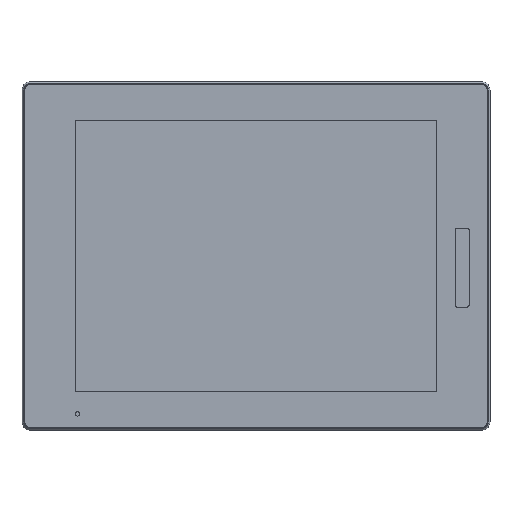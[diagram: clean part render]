
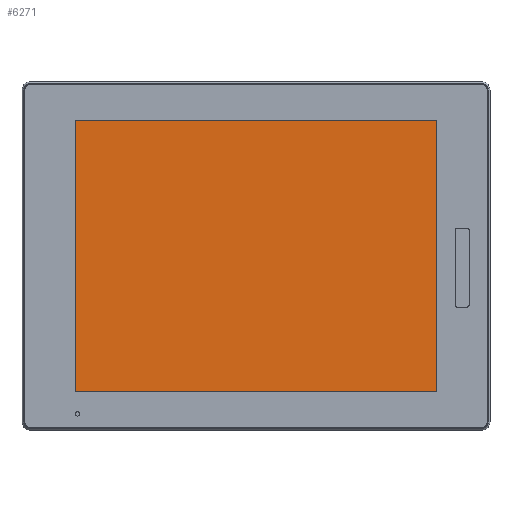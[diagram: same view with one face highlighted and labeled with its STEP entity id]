
A CAD part, top view. The second image highlights one B-rep face of the part: STEP entity #6271.
In plain terms, the highlighted planar face has unit normal (0, 0, 1).
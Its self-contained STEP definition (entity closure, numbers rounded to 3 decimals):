
#168 = VECTOR ( 'NONE', #10943, 1000. ) ;
#983 = DIRECTION ( 'NONE',  ( -1., 0., 0. ) ) ;
#995 = VECTOR ( 'NONE', #983, 1000. ) ;
#1655 = ORIENTED_EDGE ( 'NONE', *, *, #10422, .T. ) ;
#1839 = EDGE_CURVE ( 'NONE', #9930, #1986, #10707, .T. ) ;
#1902 = DIRECTION ( 'NONE',  ( 0., 0., 1. ) ) ;
#1986 = VERTEX_POINT ( 'NONE', #16241 ) ;
#2681 = EDGE_CURVE ( 'NONE', #14287, #9930, #18459, .T. ) ;
#2809 = CARTESIAN_POINT ( 'NONE',  ( -153.25, -115.25, 6.428 ) ) ;
#2992 = DIRECTION ( 'NONE',  ( -1., 0., 0. ) ) ;
#3359 = ORIENTED_EDGE ( 'NONE', *, *, #16498, .T. ) ;
#3570 = DIRECTION ( 'NONE',  ( 0., 1., 0. ) ) ;
#4156 = CARTESIAN_POINT ( 'NONE',  ( 152.25, 115.25, 6.428 ) ) ;
#4513 = AXIS2_PLACEMENT_3D ( 'NONE', #10540, #1902, #12273 ) ;
#4861 = DIRECTION ( 'NONE',  ( 0., 0., 1. ) ) ;
#5158 = EDGE_CURVE ( 'NONE', #5831, #14287, #16765, .T. ) ;
#5496 = CARTESIAN_POINT ( 'NONE',  ( 152.25, 114.25, 6.428 ) ) ;
#5775 = AXIS2_PLACEMENT_3D ( 'NONE', #9878, #11680, #11189 ) ;
#5831 = VERTEX_POINT ( 'NONE', #7919 ) ;
#6016 = ORIENTED_EDGE ( 'NONE', *, *, #5158, .T. ) ;
#6249 = FACE_OUTER_BOUND ( 'NONE', #8429, .T. ) ;
#6271 = ADVANCED_FACE ( 'NONE', ( #6249 ), #9650, .T. ) ;
#6819 = CARTESIAN_POINT ( 'NONE',  ( -152.25, -115.25, 6.428 ) ) ;
#6938 = DIRECTION ( 'NONE',  ( -1., 0., 0. ) ) ;
#7002 = VECTOR ( 'NONE', #3570, 1000. ) ;
#7006 = ORIENTED_EDGE ( 'NONE', *, *, #1839, .T. ) ;
#7068 = CIRCLE ( 'NONE', #4513, 1. ) ;
#7434 = LINE ( 'NONE', #18056, #7002 ) ;
#7863 = LINE ( 'NONE', #12364, #168 ) ;
#7919 = CARTESIAN_POINT ( 'NONE',  ( -153.25, -114.25, 6.428 ) ) ;
#8429 = EDGE_LOOP ( 'NONE', ( #9545, #12476, #9437, #3359, #1655, #6016, #17140, #7006 ) ) ;
#9158 = CARTESIAN_POINT ( 'NONE',  ( -152.25, -114.25, 6.428 ) ) ;
#9437 = ORIENTED_EDGE ( 'NONE', *, *, #13781, .T. ) ;
#9545 = ORIENTED_EDGE ( 'NONE', *, *, #18136, .T. ) ;
#9650 = PLANE ( 'NONE',  #5775 ) ;
#9815 = CARTESIAN_POINT ( 'NONE',  ( 152.25, -114.25, 6.428 ) ) ;
#9878 = CARTESIAN_POINT ( 'NONE',  ( 0., 0., 6.428 ) ) ;
#9930 = VERTEX_POINT ( 'NONE', #18333 ) ;
#10422 = EDGE_CURVE ( 'NONE', #11590, #5831, #7863, .T. ) ;
#10540 = CARTESIAN_POINT ( 'NONE',  ( -152.25, 114.25, 6.428 ) ) ;
#10707 = CIRCLE ( 'NONE', #17007, 1. ) ;
#10860 = CARTESIAN_POINT ( 'NONE',  ( -153.25, 114.25, 6.428 ) ) ;
#10943 = DIRECTION ( 'NONE',  ( 0., -1., 0. ) ) ;
#11075 = CARTESIAN_POINT ( 'NONE',  ( 153.25, 115.25, 6.428 ) ) ;
#11189 = DIRECTION ( 'NONE',  ( 1., 0., 0. ) ) ;
#11437 = VERTEX_POINT ( 'NONE', #16318 ) ;
#11444 = AXIS2_PLACEMENT_3D ( 'NONE', #9158, #4861, #2992 ) ;
#11589 = AXIS2_PLACEMENT_3D ( 'NONE', #5496, #15671, #6938 ) ;
#11590 = VERTEX_POINT ( 'NONE', #10860 ) ;
#11680 = DIRECTION ( 'NONE',  ( 0., 0., 1. ) ) ;
#11750 = EDGE_CURVE ( 'NONE', #15109, #14398, #12159, .T. ) ;
#12062 = LINE ( 'NONE', #11075, #995 ) ;
#12159 = CIRCLE ( 'NONE', #11589, 1. ) ;
#12273 = DIRECTION ( 'NONE',  ( -1., 0., 0. ) ) ;
#12364 = CARTESIAN_POINT ( 'NONE',  ( -153.25, 115.25, 6.428 ) ) ;
#12476 = ORIENTED_EDGE ( 'NONE', *, *, #11750, .T. ) ;
#13781 = EDGE_CURVE ( 'NONE', #14398, #11437, #12062, .T. ) ;
#14101 = VECTOR ( 'NONE', #16405, 1000. ) ;
#14287 = VERTEX_POINT ( 'NONE', #6819 ) ;
#14398 = VERTEX_POINT ( 'NONE', #4156 ) ;
#15109 = VERTEX_POINT ( 'NONE', #16529 ) ;
#15401 = DIRECTION ( 'NONE',  ( -1., 0., 0. ) ) ;
#15463 = DIRECTION ( 'NONE',  ( 0., 0., 1. ) ) ;
#15671 = DIRECTION ( 'NONE',  ( 0., 0., 1. ) ) ;
#16241 = CARTESIAN_POINT ( 'NONE',  ( 153.25, -114.25, 6.428 ) ) ;
#16318 = CARTESIAN_POINT ( 'NONE',  ( -152.25, 115.25, 6.428 ) ) ;
#16405 = DIRECTION ( 'NONE',  ( 1., 0., 0. ) ) ;
#16498 = EDGE_CURVE ( 'NONE', #11437, #11590, #7068, .T. ) ;
#16529 = CARTESIAN_POINT ( 'NONE',  ( 153.25, 114.25, 6.428 ) ) ;
#16765 = CIRCLE ( 'NONE', #11444, 1. ) ;
#17007 = AXIS2_PLACEMENT_3D ( 'NONE', #9815, #15463, #15401 ) ;
#17140 = ORIENTED_EDGE ( 'NONE', *, *, #2681, .T. ) ;
#18056 = CARTESIAN_POINT ( 'NONE',  ( 153.25, -115.25, 6.428 ) ) ;
#18136 = EDGE_CURVE ( 'NONE', #1986, #15109, #7434, .T. ) ;
#18333 = CARTESIAN_POINT ( 'NONE',  ( 152.25, -115.25, 6.428 ) ) ;
#18459 = LINE ( 'NONE', #2809, #14101 ) ;
